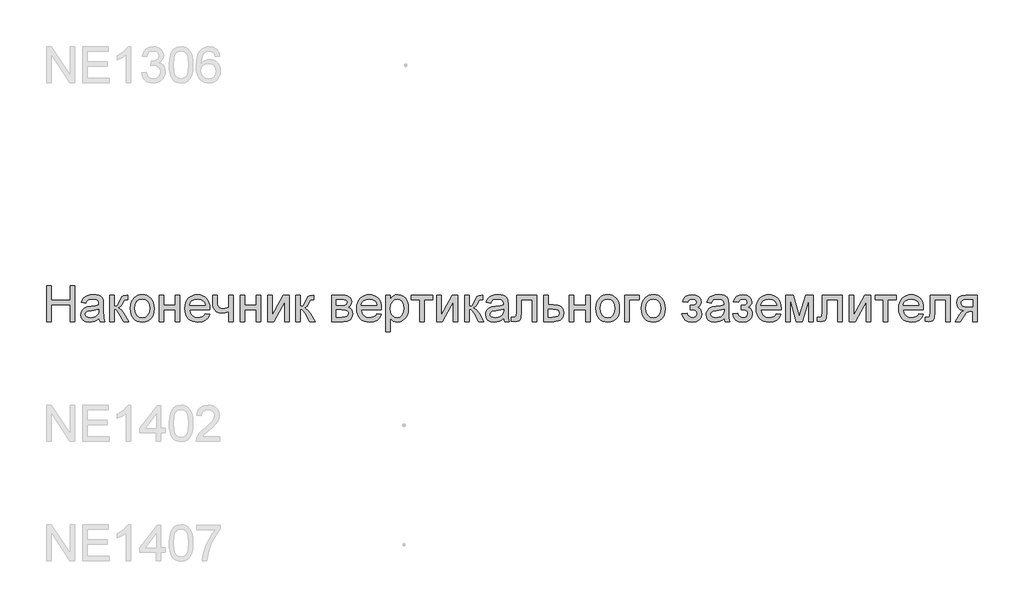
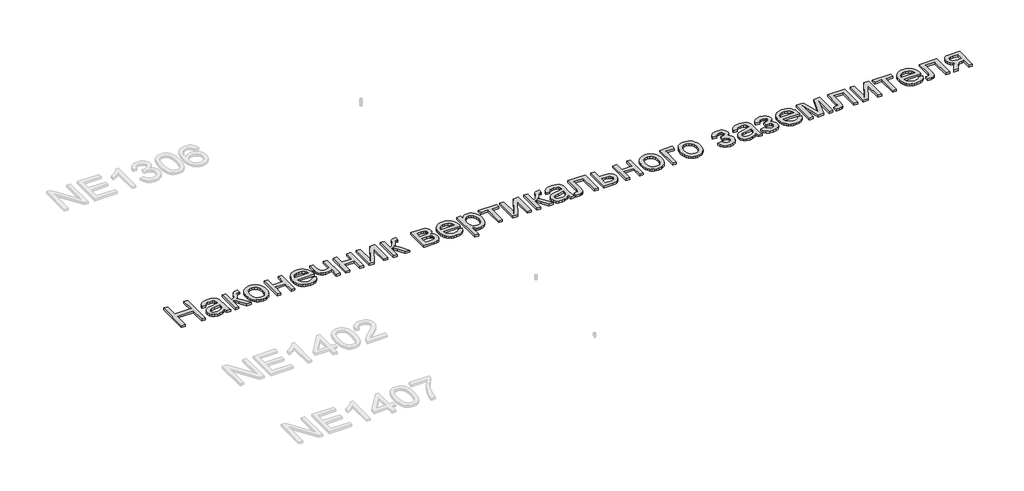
# One storey, part 48 of 124: 1 proxy.
"""IFC4 building model written with IfcOpenShell, lengths in millimetres."""

from ifc_helpers import new_model, si_unit, origin, origin_with_axes, place, context, project, spatial, polyline, outline, extrude, element, save

model = new_model("IFC4")

# Units and contexts
model_context = context("Model", 3, world=origin())
ifc_project = project(units=[si_unit("LENGTHUNIT", "METRE", prefix="MILLI")], contexts=[model_context])

# Site, building, storey
site = spatial("IfcSite", under=ifc_project)
building = spatial("IfcBuilding", under=site)
storey = spatial("IfcBuildingStorey", under=building, Name="Этаж 01", Elevation=0.0)

# Proxy
placement = place(None, origin())
element("IfcBuildingElementProxy", 1, Name="300", ObjectType="300", at=placement, inside=storey, context=model_context, shape_type="SweptSolid", body=[
    extrude(outline(polyline([(32939.8675381, -80074.498362), (32939.8675381, -79773.1294316), (32977.5386545, -79773.1294316), (32977.5386545, -79895.5605595), (33137.6408988, -79895.5605595), (33137.6408988, -79773.1294316), (33175.3120151, -79773.1294316), (33175.3120151, -80074.498362), (33137.6408988, -80074.498362), (33137.6408988, -79933.2316759), (32977.5386545, -79933.2316759), (32977.5386545, -80074.498362), (32939.8675381, -80074.498362)])), origin_with_axes(), (0.0, 0.0, 1.0), 20.0),
    extrude(outline(polyline([(33377.7942652, -80046.2450248), (33359.7956386, -80061.6776745), (33341.2635831, -80071.7760352), (33321.7750344, -80077.3494475), (33300.9069282, -80079.2072515), (33269.4254265, -80074.7374853), (33246.2028755, -80061.3281866), (33231.8830689, -80040.9659181), (33227.1098, -80015.6372428), (33228.9124218, -80000.0206521), (33234.3202871, -79985.8388012), (33242.6620113, -79973.6986953), (33253.2662098, -79964.2073398), (33279.6433489, -79951.8465048), (33312.2376937, -79946.1811221), (33350.7549386, -79940.2214338), (33377.573536, -79933.2316759), (33377.7942652, -79924.8439664), (33375.2006971, -79908.0317592), (33367.4199929, -79897.0320875), (33350.0191746, -79888.8651072), (33325.7757511, -79886.1427805), (33303.3349494, -79887.9545993), (33287.6631764, -79893.3900558), (33276.9762044, -79903.4424313), (33269.4898058, -79919.1050072), (33231.8186895, -79914.3961177), (33238.357792, -79893.794726), (33248.1158619, -79877.6079182), (33262.0034072, -79865.228689), (33280.9309359, -79856.0500333), (33304.0799104, -79850.3662564), (33330.6317934, -79848.4716642), (33356.0984245, -79850.1455272), (33376.285949, -79855.1671165), (33391.5070666, -79862.7178944), (33402.0744769, -79871.9793237), (33409.0826289, -79883.4296508), (33413.6259715, -79897.5471223), (33415.4653815, -79930.5093491), (33415.4653815, -79977.3775153), (33417.3783679, -80042.8237222), (33424.8831606, -80074.498362), (33387.2120443, -80074.498362), (33377.7942652, -80046.2450248)]), holes=[polyline([(33377.7942652, -79970.9027922), (33317.0201596, -79982.4542868), (33284.6097558, -79988.5611279), (33269.9312642, -79998.4939418), (33264.7809163, -80012.9884924), (33267.5860165, -80024.1904992), (33276.0013171, -80033.3691549), (33289.8428772, -80039.4943902), (33308.9267557, -80041.5361352), (33329.1602654, -80039.282858), (33347.0393304, -80032.5230264), (33361.533881, -80022.5626213), (33371.6138477, -80010.707624), (33376.0836139, -79998.4939418), (33377.573536, -79981.57137), (33377.7942652, -79970.9027922)])]), origin_with_axes(), (0.0, 0.0, 1.0), 20.0),
    extrude(outline(polyline([(33467.2631664, -79853.1805537), (33504.9342827, -79853.1805537), (33504.9342827, -79947.3583445), (33520.2565678, -79945.6660873), (33530.1709876, -79940.5893158), (33538.9449732, -79927.3455639), (33550.8459557, -79901.1523659), (33568.0260449, -79867.1232813), (33583.1827831, -79856.0500333), (33610.7371446, -79853.1805537), (33617.9476317, -79853.1805537), (33617.9476317, -79891.0723992), (33607.7940886, -79890.85167), (33589.3999888, -79894.8247956), (33576.4505426, -79919.620042), (33561.2570162, -79946.4386395), (33539.9566487, -79959.5720267), (33551.8944194, -79964.874126), (33563.7218256, -79974.2321242), (33587.0455441, -80005.1158177), (33627.3654107, -80074.498362), (33584.5439465, -80074.498362), (33545.0334202, -80006.5873457), (33525.1677925, -79977.8557619), (33515.8787721, -79972.6410346), (33504.9342827, -79970.9027922), (33504.9342827, -80074.498362), (33467.2631664, -80074.498362), (33467.2631664, -79853.1805537)])), origin_with_axes(), (0.0, 0.0, 1.0), 20.0),
    extrude(outline(polyline([(33641.4920794, -79963.8394579), (33643.5292259, -79935.1768519), (33649.6406655, -79910.4781745), (33659.8263983, -79889.7434255), (33674.0864241, -79872.972605), (33688.443019, -79862.2534434), (33704.2895359, -79854.5968994), (33721.6259749, -79850.002973), (33740.4523361, -79848.4716642), (33761.2353695, -79850.336366), (33780.0272417, -79855.9304716), (33796.8279526, -79865.2539809), (33811.6375021, -79878.306894), (33823.7247249, -79894.6477523), (33832.3584555, -79913.8350977), (33837.5386938, -79935.8689299), (33839.26544, -79960.7492491), (33836.2120194, -79998.8066415), (33827.0517577, -80027.7773486), (33812.0513694, -80049.4731893), (33791.4775688, -80065.7059823), (33767.0410073, -80075.8319342), (33740.4523361, -80079.2072515), (33719.3657999, -80077.3494475), (33700.3991838, -80071.7760352), (33683.5524877, -80062.4870149), (33668.8257116, -80049.4823863), (33656.8672475, -80032.9828788), (33648.3254874, -80013.2092216), (33643.2004314, -79990.1614146), (33641.4920794, -79963.8394579)]), holes=[polyline([(33679.1631957, -79963.7658815), (33683.5225973, -79997.8593454), (33696.6008022, -80022.1487541), (33716.282489, -80036.6892899), (33740.4523361, -80041.5361352), (33764.5118185, -80036.6616988), (33784.1567171, -80022.0383895), (33797.234922, -79997.427084), (33801.5943237, -79962.5886591), (33797.2073309, -79929.4884766), (33784.0463525, -79905.5301616), (33764.3738628, -79890.9896258), (33740.4523361, -79886.1427805), (33716.282489, -79890.9712317), (33696.6008022, -79905.4565852), (33683.5225973, -79929.6908117), (33679.1631957, -79963.7658815)])]), origin_with_axes(), (0.0, 0.0, 1.0), 20.0),
    extrude(outline(polyline([(33881.6454458, -79853.1805537), (33919.3165621, -79853.1805537), (33919.3165621, -79937.9405654), (34018.2032424, -79937.9405654), (34018.2032424, -79853.1805537), (34055.8743587, -79853.1805537), (34055.8743587, -80074.498362), (34018.2032424, -80074.498362), (34018.2032424, -79975.6116817), (33919.3165621, -79975.6116817), (33919.3165621, -80074.498362), (33881.6454458, -80074.498362), (33881.6454458, -79853.1805537)])), origin_with_axes(), (0.0, 0.0, 1.0), 20.0),
    extrude(outline(polyline([(34267.3329295, -80008.5739085), (34304.2682819, -80013.282798), (34290.9601507, -80041.1130709), (34269.7241625, -80061.9167978), (34241.0385639, -80074.8846381), (34205.3816016, -80079.2072515), (34182.0072993, -80077.3425497), (34161.1805798, -80071.7484441), (34142.9014432, -80062.4249348), (34127.1698894, -80049.3720217), (34114.5193473, -80032.9529884), (34105.4832458, -80013.5311184), (34100.0615849, -79991.1064115), (34098.2543646, -79965.6788678), (34100.079979, -79939.3891007), (34105.5568222, -79916.2171336), (34114.6848942, -79896.1629663), (34127.464195, -79879.226599), (34143.1543621, -79865.771315), (34161.0150329, -79856.1603979), (34181.0462076, -79850.3938476), (34203.247886, -79848.4716642), (34224.7344938, -79850.3892491), (34244.1655609, -79856.1420038), (34261.5410874, -79865.7299283), (34276.8610732, -79879.1530226), (34289.3667618, -79896.0526017), (34298.2993965, -79916.0699808), (34303.6589773, -79939.2051598), (34305.4455042, -79965.4581386), (34305.224775, -79975.6116817), (34135.9254809, -79975.6116817), (34142.4461892, -80003.8098366), (34157.5937304, -80024.5399871), (34179.4551179, -80037.2870982), (34206.1173655, -80041.5361352), (34226.1669343, -80039.5679666), (34243.0527179, -80033.6634605), (34256.7747163, -80023.4547352), (34267.3329295, -80008.5739085)]), holes=[polyline([(34135.9254809, -79937.9405654), (34267.7743879, -79937.9405654), (34262.6792223, -79918.0381495), (34252.6912261, -79903.8011162), (34230.728671, -79890.5573644), (34203.1007332, -79886.1427805), (34177.7076785, -79889.6652506), (34156.7108136, -79900.2326609), (34142.1150954, -79916.7045772), (34135.9254809, -79937.9405654)])]), origin_with_axes(), (0.0, 0.0, 1.0), 20.0),
    extrude(outline(polyline([(34328.9899519, -79853.1805537), (34366.6610682, -79853.1805537), (34366.6610682, -79895.6341359), (34369.7144888, -79935.4389678), (34374.910822, -79947.0088566), (34384.3929804, -79956.9968527), (34397.4895794, -79963.8946402), (34413.5292344, -79966.1939026), (34436.5770414, -79963.3428172), (34465.5477485, -79954.7895608), (34465.5477485, -79853.1805537), (34503.2188649, -79853.1805537), (34503.2188649, -80074.498362), (34465.5477485, -80074.498362), (34465.5477485, -79990.9155727), (34433.3948622, -80000.6276574), (34403.4492678, -80003.8650189), (34380.6681752, -80000.4897016), (34360.7381681, -79990.3637497), (34345.2043509, -79975.3449673), (34335.6118278, -79957.2911583), (34330.6454209, -79936.7449489), (34328.9899519, -79914.2489649), (34328.9899519, -79853.1805537)])), origin_with_axes(), (0.0, 0.0, 1.0), 20.0),
    extrude(outline(polyline([(34559.7255393, -79853.1805537), (34597.3966556, -79853.1805537), (34597.3966556, -79937.9405654), (34696.2833359, -79937.9405654), (34696.2833359, -79853.1805537), (34733.9544522, -79853.1805537), (34733.9544522, -80074.498362), (34696.2833359, -80074.498362), (34696.2833359, -79975.6116817), (34597.3966556, -79975.6116817), (34597.3966556, -80074.498362), (34559.7255393, -80074.498362), (34559.7255393, -79853.1805537)])), origin_with_axes(), (0.0, 0.0, 1.0), 20.0),
    extrude(outline(polyline([(34790.4611267, -79853.1805537), (34828.132243, -79853.1805537), (34828.132243, -80021.9648131), (34920.691353, -79853.1805537), (34969.3989291, -79853.1805537), (34969.3989291, -80074.498362), (34931.7278128, -80074.498362), (34931.7278128, -79906.7441722), (34839.757314, -80074.498362), (34790.4611267, -80074.498362), (34790.4611267, -79853.1805537)])), origin_with_axes(), (0.0, 0.0, 1.0), 20.0),
    extrude(outline(polyline([(35025.9056036, -79853.1805537), (35063.5767199, -79853.1805537), (35063.5767199, -79947.3583445), (35078.899005, -79945.6660873), (35088.8134248, -79940.5893158), (35097.5874104, -79927.3455639), (35109.4883929, -79901.1523659), (35126.6684821, -79867.1232813), (35141.8252203, -79856.0500333), (35169.3795817, -79853.1805537), (35176.5900688, -79853.1805537), (35176.5900688, -79891.0723992), (35166.4365258, -79890.85167), (35148.042426, -79894.8247956), (35135.0929798, -79919.620042), (35119.8994534, -79946.4386395), (35098.5990858, -79959.5720267), (35110.5368566, -79964.874126), (35122.3642627, -79974.2321242), (35145.6879812, -80005.1158177), (35186.0078479, -80074.498362), (35143.1863837, -80074.498362), (35103.6758574, -80006.5873457), (35083.8102296, -79977.8557619), (35074.5212093, -79972.6410346), (35063.5767199, -79970.9027922), (35063.5767199, -80074.498362), (35025.9056036, -80074.498362), (35025.9056036, -79853.1805537)])), origin_with_axes(), (0.0, 0.0, 1.0), 20.0),
    extrude(outline(polyline([(35327.274534, -79853.1805537), (35410.2687122, -79853.1805537), (35436.9493539, -79854.4405495), (35455.775715, -79858.220537), (35469.6264721, -79865.3574477), (35481.3803018, -79876.6882132), (35489.4093264, -79891.4494783), (35492.0856679, -79908.8778878), (35490.4669871, -79922.9217829), (35485.6109448, -79935.0342976), (35477.4991468, -79945.2706141), (35466.113199, -79953.6859148), (35480.0559266, -79961.5126042), (35491.4234803, -79974.1033655), (35498.9834553, -79990.4649173), (35501.503447, -80009.6039781), (35495.1206943, -80038.3171678), (35479.945562, -80058.5322834), (35455.9228678, -80070.5068424), (35422.9974292, -80074.498362), (35327.274534, -80074.498362), (35327.274534, -79853.1805537)]), holes=[polyline([(35364.9456504, -79937.9405654), (35402.1753083, -79937.9405654), (35432.8934549, -79936.027579), (35447.8294639, -79928.3756335), (35452.7682797, -79922.0480632), (35454.4145516, -79914.5432705), (35451.5266779, -79903.3044755), (35442.8630569, -79896.0755943), (35427.209678, -79892.1576511), (35403.3525307, -79890.85167), (35364.9456504, -79890.85167), (35364.9456504, -79937.9405654)]), polyline([(35364.9456504, -80036.8272457), (35411.1516289, -80036.8272457), (35436.3331515, -80035.1257915), (35452.1336832, -80030.0214288), (35460.6133632, -80020.7416055), (35463.8323307, -80006.5137693), (35462.2228469, -79997.0867932), (35457.3943957, -79988.3771869), (35449.9815735, -79981.562173), (35440.6189768, -79977.8189737), (35407.472809, -79975.6116817), (35364.9456504, -79975.6116817), (35364.9456504, -80036.8272457)])]), origin_with_axes(), (0.0, 0.0, 1.0), 20.0),
    extrude(outline(polyline([(35703.5442387, -80008.5739085), (35740.479591, -80013.282798), (35727.1714599, -80041.1130709), (35705.9354717, -80061.9167978), (35677.2498731, -80074.8846381), (35641.5929107, -80079.2072515), (35618.2186085, -80077.3425497), (35597.391889, -80071.7484441), (35579.1127524, -80062.4249348), (35563.3811986, -80049.3720217), (35550.7306564, -80032.9529884), (35541.6945549, -80013.5311184), (35536.272894, -79991.1064115), (35534.4656737, -79965.6788678), (35536.2912881, -79939.3891007), (35541.7681313, -79916.2171336), (35550.8962033, -79896.1629663), (35563.6755041, -79879.226599), (35579.3656712, -79865.771315), (35597.2263421, -79856.1603979), (35617.2575167, -79850.3938476), (35639.4591952, -79848.4716642), (35660.9458029, -79850.3892491), (35680.3768701, -79856.1420038), (35697.7523966, -79865.7299283), (35713.0723824, -79879.1530226), (35725.578071, -79896.0526017), (35734.5107057, -79916.0699808), (35739.8702865, -79939.2051598), (35741.6568134, -79965.4581386), (35741.4360842, -79975.6116817), (35572.13679, -79975.6116817), (35578.6574984, -80003.8098366), (35593.8050396, -80024.5399871), (35615.6664271, -80037.2870982), (35642.3286747, -80041.5361352), (35662.3782435, -80039.5679666), (35679.264027, -80033.6634605), (35692.9860255, -80023.4547352), (35703.5442387, -80008.5739085)]), holes=[polyline([(35572.13679, -79937.9405654), (35703.9856971, -79937.9405654), (35698.8905315, -79918.0381495), (35688.9025353, -79903.8011162), (35666.9399802, -79890.5573644), (35639.3120424, -79886.1427805), (35613.9189876, -79889.6652506), (35592.9221228, -79900.2326609), (35578.3264046, -79916.7045772), (35572.13679, -79937.9405654)])]), origin_with_axes(), (0.0, 0.0, 1.0), 20.0),
    extrude(outline(polyline([(35779.3279297, -80159.2583737), (35779.3279297, -79853.1805537), (35816.999046, -79853.1805537), (35816.999046, -79890.115906), (35829.2863047, -79871.8965502), (35843.0450913, -79858.8827246), (35859.0847463, -79851.0744293), (35878.21461, -79848.4716642), (35903.6904382, -79852.1136959), (35925.965693, -79863.0397912), (35944.1022754, -79880.5877623), (35957.1620862, -79904.0954218), (35965.053155, -79931.8521184), (35967.6835113, -79962.1472007), (35964.7128641, -79994.3644664), (35955.8009228, -80023.1788237), (35941.2327958, -80047.1279416), (35921.2935917, -80064.7494891), (35898.0710407, -80075.5928109), (35873.6528733, -80079.2072515), (35856.3348284, -80076.7884274), (35840.8745875, -80069.5319551), (35827.6400327, -80058.5782687), (35816.999046, -80045.0678024), (35816.999046, -80159.2583737), (35779.3279297, -80159.2583737)]), holes=[polyline([(35816.999046, -79965.6052914), (35821.0733391, -79999.3768586), (35833.2962184, -80022.9948827), (35851.3316332, -80036.9008221), (35872.8435329, -80041.5361352), (35894.7049205, -80036.7352752), (35913.2001878, -80022.3326951), (35925.8093432, -79997.8501483), (35930.0123949, -79962.8093883), (35925.9105107, -79929.2217621), (35913.604858, -79905.2726442), (35895.5970343, -79890.9252464), (35874.3886373, -79886.1427805), (35853.0974668, -79891.2287491), (35834.3998644, -79906.4866548), (35821.3492506, -79931.4382511), (35816.999046, -79965.6052914)])]), origin_with_axes(), (0.0, 0.0, 1.0), 20.0),
    extrude(outline(polyline([(35991.2279589, -79853.1805537), (36170.1657614, -79853.1805537), (36170.1657614, -79890.85167), (36099.5324183, -79890.85167), (36099.5324183, -80074.498362), (36061.861302, -80074.498362), (36061.861302, -79890.85167), (35991.2279589, -79890.85167), (35991.2279589, -79853.1805537)])), origin_with_axes(), (0.0, 0.0, 1.0), 20.0),
    extrude(outline(polyline([(36203.1279882, -79853.1805537), (36240.7991045, -79853.1805537), (36240.7991045, -80021.9648131), (36333.3582145, -79853.1805537), (36382.0657906, -79853.1805537), (36382.0657906, -80074.498362), (36344.3946743, -80074.498362), (36344.3946743, -79906.7441722), (36252.4241755, -80074.498362), (36203.1279882, -80074.498362), (36203.1279882, -79853.1805537)])), origin_with_axes(), (0.0, 0.0, 1.0), 20.0),
    extrude(outline(polyline([(36438.5724651, -79853.1805537), (36476.2435814, -79853.1805537), (36476.2435814, -79947.3583445), (36491.5658665, -79945.6660873), (36501.4802863, -79940.5893158), (36510.2542718, -79927.3455639), (36522.1552544, -79901.1523659), (36539.3353436, -79867.1232813), (36554.4920818, -79856.0500333), (36582.0464432, -79853.1805537), (36589.2569303, -79853.1805537), (36589.2569303, -79891.0723992), (36579.1033872, -79890.85167), (36560.7092875, -79894.8247956), (36547.7598412, -79919.620042), (36532.5663148, -79946.4386395), (36511.2659473, -79959.5720267), (36523.2037181, -79964.874126), (36535.0311242, -79974.2321242), (36558.3548427, -80005.1158177), (36598.6747094, -80074.498362), (36555.8532451, -80074.498362), (36516.3427189, -80006.5873457), (36496.4770911, -79977.8557619), (36487.1880707, -79972.6410346), (36476.2435814, -79970.9027922), (36476.2435814, -80074.498362), (36438.5724651, -80074.498362), (36438.5724651, -79853.1805537)])), origin_with_axes(), (0.0, 0.0, 1.0), 20.0),
    extrude(outline(polyline([(36763.4858432, -80046.2450248), (36745.4872166, -80061.6776745), (36726.9551611, -80071.7760352), (36707.4666124, -80077.3494475), (36686.5985062, -80079.2072515), (36655.1170045, -80074.7374853), (36631.8944535, -80061.3281866), (36617.5746469, -80040.9659181), (36612.801378, -80015.6372428), (36614.6039998, -80000.0206521), (36620.0118651, -79985.8388012), (36628.3535893, -79973.6986953), (36638.9577879, -79964.2073398), (36665.3349269, -79951.8465048), (36697.9292717, -79946.1811221), (36736.4465166, -79940.2214338), (36763.265114, -79933.2316759), (36763.4858432, -79924.8439664), (36760.8922752, -79908.0317592), (36753.111571, -79897.0320875), (36735.7107526, -79888.8651072), (36711.4673291, -79886.1427805), (36689.0265274, -79887.9545993), (36673.3547544, -79893.3900558), (36662.6677824, -79903.4424313), (36655.1813838, -79919.1050072), (36617.5102675, -79914.3961177), (36624.04937, -79893.794726), (36633.8074399, -79877.6079182), (36647.6949852, -79865.228689), (36666.6225139, -79856.0500333), (36689.7714884, -79850.3662564), (36716.3233714, -79848.4716642), (36741.7900026, -79850.1455272), (36761.977527, -79855.1671165), (36777.1986446, -79862.7178944), (36787.7660549, -79871.9793237), (36794.7742069, -79883.4296508), (36799.3175495, -79897.5471223), (36801.1569595, -79930.5093491), (36801.1569595, -79977.3775153), (36803.0699459, -80042.8237222), (36810.5747386, -80074.498362), (36772.9036223, -80074.498362), (36763.4858432, -80046.2450248)]), holes=[polyline([(36763.4858432, -79970.9027922), (36702.7117376, -79982.4542868), (36670.3013338, -79988.5611279), (36655.6228422, -79998.4939418), (36650.4724943, -80012.9884924), (36653.2775945, -80024.1904992), (36661.6928952, -80033.3691549), (36675.5344552, -80039.4943902), (36694.6183337, -80041.5361352), (36714.8518435, -80039.282858), (36732.7309084, -80032.5230264), (36747.225459, -80022.5626213), (36757.3054257, -80010.707624), (36761.7751919, -79998.4939418), (36763.265114, -79981.57137), (36763.4858432, -79970.9027922)])]), origin_with_axes(), (0.0, 0.0, 1.0), 20.0),
    extrude(outline(polyline([(36871.7903026, -79853.1805537), (37041.310326, -79853.1805537), (37041.310326, -80074.2776328), (37003.6392097, -80074.2776328), (37003.6392097, -79890.85167), (36909.4614189, -79890.85167), (36909.4614189, -79996.4338026), (36906.9230331, -80045.1413788), (36902.1681584, -80056.1686416), (36892.9803055, -80065.7059823), (36879.0375779, -80072.3002671), (36860.0180788, -80074.498362), (36829.4102968, -80072.5853756), (36829.4102968, -80036.8272457), (36846.2592921, -80036.8272457), (36863.2922285, -80034.5095891), (36870.0980454, -80027.1519492), (36871.7903026, -79994.3000871), (36871.7903026, -79853.1805537)])), origin_with_axes(), (0.0, 0.0, 1.0), 20.0),
    extrude(outline(polyline([(37097.8170004, -79853.1805537), (37135.4881167, -79853.1805537), (37135.4881167, -79933.2316759), (37178.8981922, -79933.2316759), (37216.5325203, -79937.9497624), (37231.6800614, -79943.8473707), (37244.3811873, -79952.1040222), (37254.4243658, -79962.4346085), (37261.5980647, -79974.554021), (37267.3370238, -80004.1593245), (37262.4533903, -80031.1158777), (37247.8024899, -80053.8601821), (37236.5705927, -80062.8893858), (37222.4094352, -80069.338817), (37185.2993389, -80074.498362), (37097.8170004, -80074.498362), (37097.8170004, -79853.1805537)]), holes=[polyline([(37135.4881167, -80036.8272457), (37170.6576355, -80036.8272457), (37197.9452825, -80034.84988), (37216.0910619, -80028.9177828), (37226.2721961, -80018.7918309), (37229.6659075, -80004.2329009), (37227.1551129, -79991.9272482), (37219.622729, -79981.0563352), (37203.4819065, -79973.4411779), (37175.1457958, -79970.9027922), (37135.4881167, -79970.9027922), (37135.4881167, -80036.8272457)])]), origin_with_axes(), (0.0, 0.0, 1.0), 20.0),
    extrude(outline(polyline([(37314.4259192, -79853.1805537), (37352.0970355, -79853.1805537), (37352.0970355, -79937.9405654), (37450.9837158, -79937.9405654), (37450.9837158, -79853.1805537), (37488.6548321, -79853.1805537), (37488.6548321, -80074.498362), (37450.9837158, -80074.498362), (37450.9837158, -79975.6116817), (37352.0970355, -79975.6116817), (37352.0970355, -80074.498362), (37314.4259192, -80074.498362), (37314.4259192, -79853.1805537)])), origin_with_axes(), (0.0, 0.0, 1.0), 20.0),
    extrude(outline(polyline([(37535.7437275, -79963.8394579), (37537.780874, -79935.1768519), (37543.8923137, -79910.4781745), (37554.0780464, -79889.7434255), (37568.3380723, -79872.972605), (37582.6946671, -79862.2534434), (37598.5411841, -79854.5968994), (37615.8776231, -79850.002973), (37634.7039842, -79848.4716642), (37655.4870177, -79850.336366), (37674.2788898, -79855.9304716), (37691.0796007, -79865.2539809), (37705.8891503, -79878.306894), (37717.9763731, -79894.6477523), (37726.6101036, -79913.8350977), (37731.790342, -79935.8689299), (37733.5170881, -79960.7492491), (37730.4636675, -79998.8066415), (37721.3034059, -80027.7773486), (37706.3030175, -80049.4731893), (37685.7292169, -80065.7059823), (37661.2926554, -80075.8319342), (37634.7039842, -80079.2072515), (37613.6174481, -80077.3494475), (37594.650832, -80071.7760352), (37577.8041359, -80062.4870149), (37563.0773597, -80049.4823863), (37551.1188956, -80032.9828788), (37542.5771356, -80013.2092216), (37537.4520795, -79990.1614146), (37535.7437275, -79963.8394579)]), holes=[polyline([(37573.4148438, -79963.7658815), (37577.7742454, -79997.8593454), (37590.8524504, -80022.1487541), (37610.5341371, -80036.6892899), (37634.7039842, -80041.5361352), (37658.7634667, -80036.6616988), (37678.4083652, -80022.0383895), (37691.4865702, -79997.427084), (37695.8459718, -79962.5886591), (37691.458979, -79929.4884766), (37678.2980006, -79905.5301616), (37658.6255109, -79890.9896258), (37634.7039842, -79886.1427805), (37610.5341371, -79890.9712317), (37590.8524504, -79905.4565852), (37577.7742454, -79929.6908117), (37573.4148438, -79963.7658815)])]), origin_with_axes(), (0.0, 0.0, 1.0), 20.0),
    extrude(outline(polyline([(37775.8970939, -79853.1805537), (37898.3282219, -79853.1805537), (37898.3282219, -79890.85167), (37813.5682103, -79890.85167), (37813.5682103, -80074.498362), (37775.8970939, -80074.498362), (37775.8970939, -79853.1805537)])), origin_with_axes(), (0.0, 0.0, 1.0), 20.0),
    extrude(outline(polyline([(37917.1637801, -79963.8394579), (37919.2009266, -79935.1768519), (37925.3123663, -79910.4781745), (37935.498099, -79889.7434255), (37949.7581249, -79872.972605), (37964.1147197, -79862.2534434), (37979.9612367, -79854.5968994), (37997.2976757, -79850.002973), (38016.1240368, -79848.4716642), (38036.9070703, -79850.336366), (38055.6989424, -79855.9304716), (38072.4996533, -79865.2539809), (38087.3092029, -79878.306894), (38099.3964257, -79894.6477523), (38108.0301562, -79913.8350977), (38113.2103946, -79935.8689299), (38114.9371407, -79960.7492491), (38111.8837201, -79998.8066415), (38102.7234585, -80027.7773486), (38087.7230701, -80049.4731893), (38067.1492695, -80065.7059823), (38042.712708, -80075.8319342), (38016.1240368, -80079.2072515), (37995.0375007, -80077.3494475), (37976.0708846, -80071.7760352), (37959.2241885, -80062.4870149), (37944.4974123, -80049.4823863), (37932.5389482, -80032.9828788), (37923.9971882, -80013.2092216), (37918.8721321, -79990.1614146), (37917.1637801, -79963.8394579)]), holes=[polyline([(37954.8348964, -79963.7658815), (37959.194298, -79997.8593454), (37972.272503, -80022.1487541), (37991.9541897, -80036.6892899), (38016.1240368, -80041.5361352), (38040.1835193, -80036.6616988), (38059.8284178, -80022.0383895), (38072.9066228, -79997.427084), (38077.2660244, -79962.5886591), (38072.8790316, -79929.4884766), (38059.7180532, -79905.5301616), (38040.0455635, -79890.9896258), (38016.1240368, -79886.1427805), (37991.9541897, -79890.9712317), (37972.272503, -79905.4565852), (37959.194298, -79929.6908117), (37954.8348964, -79963.7658815)])]), origin_with_axes(), (0.0, 0.0, 1.0), 20.0),
    extrude(outline(polyline([(38326.8371699, -79975.6116817), (38326.8371699, -79937.9405654), (38356.5620351, -79936.4690374), (38371.5716205, -79928.6331509), (38376.8691213, -79921.2847081), (38378.6349548, -79912.2624021), (38376.271313, -79901.547839), (38369.1803876, -79893.242903), (38358.3554599, -79887.9178111), (38344.7898113, -79886.1427805), (38331.0770099, -79887.908614), (38319.5898946, -79893.2061148), (38310.3284654, -79902.0352827), (38303.2927222, -79914.3961177), (38260.9127164, -79909.6872282), (38272.1515113, -79882.9054189), (38289.23963, -79863.7755552), (38312.1770724, -79852.2976369), (38340.9638385, -79848.4716642), (38372.4545373, -79853.1345685), (38396.2932906, -79867.1232813), (38411.302876, -79887.5867173), (38416.3060711, -79911.6737909), (38414.526442, -79924.034626), (38409.1875545, -79935.0710858), (38400.2894088, -79944.7831705), (38387.8320047, -79953.17088), (38402.3725406, -79963.6371228), (38412.7376158, -79976.6417513), (38418.9456245, -79992.2215538), (38421.0149607, -80010.4133184), (38415.7634452, -80038.1424238), (38400.0088988, -80060.114176), (38374.8181791, -80074.4339827), (38341.2581441, -80079.2072515), (38308.4338731, -80074.7926676), (38283.3167299, -80061.5489158), (38265.9067145, -80039.4759961), (38256.2038268, -80008.5739085), (38298.5838327, -80003.8650189), (38304.9297971, -80019.7943093), (38315.5799809, -80031.6768978), (38329.3019793, -80039.0713259), (38344.8633877, -80041.5361352), (38360.0201259, -80039.1724934), (38372.3809609, -80032.081568), (38380.6031235, -80021.3118225), (38383.3438444, -80007.9117209), (38381.6423902, -79997.2983253), (38376.5380275, -79988.1196695), (38362.0434769, -79977.5246681), (38334.1948098, -79975.3909525), (38326.8371699, -79975.6116817)])), origin_with_axes(), (0.0, 0.0, 1.0), 20.0),
    extrude(outline(polyline([(38609.3705422, -80046.2450248), (38591.3719156, -80061.6776745), (38572.8398601, -80071.7760352), (38553.3513114, -80077.3494475), (38532.4832052, -80079.2072515), (38501.0017035, -80074.7374853), (38477.7791525, -80061.3281866), (38463.4593459, -80040.9659181), (38458.686077, -80015.6372428), (38460.4886988, -80000.0206521), (38465.8965641, -79985.8388012), (38474.2382883, -79973.6986953), (38484.8424869, -79964.2073398), (38511.2196259, -79951.8465048), (38543.8139707, -79946.1811221), (38582.3312156, -79940.2214338), (38609.149813, -79933.2316759), (38609.3705422, -79924.8439664), (38606.7769742, -79908.0317592), (38598.99627, -79897.0320875), (38581.5954516, -79888.8651072), (38557.3520281, -79886.1427805), (38534.9112264, -79887.9545993), (38519.2394534, -79893.3900558), (38508.5524814, -79903.4424313), (38501.0660828, -79919.1050072), (38463.3949665, -79914.3961177), (38469.934069, -79893.794726), (38479.6921389, -79877.6079182), (38493.5796842, -79865.228689), (38512.5072129, -79856.0500333), (38535.6561874, -79850.3662564), (38562.2080704, -79848.4716642), (38587.6747016, -79850.1455272), (38607.862226, -79855.1671165), (38623.0833436, -79862.7178944), (38633.6507539, -79871.9793237), (38640.6589059, -79883.4296508), (38645.2022485, -79897.5471223), (38647.0416585, -79930.5093491), (38647.0416585, -79977.3775153), (38648.9546449, -80042.8237222), (38656.4594376, -80074.498362), (38618.7883213, -80074.498362), (38609.3705422, -80046.2450248)]), holes=[polyline([(38609.3705422, -79970.9027922), (38548.5964366, -79982.4542868), (38516.1860328, -79988.5611279), (38501.5075412, -79998.4939418), (38496.3571933, -80012.9884924), (38499.1622935, -80024.1904992), (38507.5775942, -80033.3691549), (38521.4191542, -80039.4943902), (38540.5030327, -80041.5361352), (38560.7365425, -80039.282858), (38578.6156074, -80032.5230264), (38593.110158, -80022.5626213), (38603.1901247, -80010.707624), (38607.6598909, -79998.4939418), (38609.149813, -79981.57137), (38609.3705422, -79970.9027922)])]), origin_with_axes(), (0.0, 0.0, 1.0), 20.0),
    extrude(outline(polyline([(38750.6372284, -79975.6116817), (38750.6372284, -79937.9405654), (38780.3620936, -79936.4690374), (38795.371679, -79928.6331509), (38800.6691797, -79921.2847081), (38802.4350133, -79912.2624021), (38800.0713715, -79901.547839), (38792.980446, -79893.242903), (38782.1555183, -79887.9178111), (38768.5898697, -79886.1427805), (38754.8770684, -79887.908614), (38743.3899531, -79893.2061148), (38734.1285238, -79902.0352827), (38727.0927807, -79914.3961177), (38684.7127748, -79909.6872282), (38695.9515698, -79882.9054189), (38713.0396885, -79863.7755552), (38735.9771309, -79852.2976369), (38764.763897, -79848.4716642), (38796.2545958, -79853.1345685), (38820.0933491, -79867.1232813), (38835.1029345, -79887.5867173), (38840.1061296, -79911.6737909), (38838.3265004, -79924.034626), (38832.987613, -79935.0710858), (38824.0894672, -79944.7831705), (38811.6320632, -79953.17088), (38826.172599, -79963.6371228), (38836.5376742, -79976.6417513), (38842.7456829, -79992.2215538), (38844.8150191, -80010.4133184), (38839.5635036, -80038.1424238), (38823.8089572, -80060.114176), (38798.6182376, -80074.4339827), (38765.0582026, -80079.2072515), (38732.2339316, -80074.7926676), (38707.1167883, -80061.5489158), (38689.7067729, -80039.4759961), (38680.0038853, -80008.5739085), (38722.3838911, -80003.8650189), (38728.7298556, -80019.7943093), (38739.3800393, -80031.6768978), (38753.1020377, -80039.0713259), (38768.6634461, -80041.5361352), (38783.8201843, -80039.1724934), (38796.1810194, -80032.081568), (38804.403182, -80021.3118225), (38807.1439028, -80007.9117209), (38805.4424486, -79997.2983253), (38800.3380859, -79988.1196695), (38785.8435353, -79977.5246681), (38757.9948683, -79975.3909525), (38750.6372284, -79975.6116817)])), origin_with_axes(), (0.0, 0.0, 1.0), 20.0),
    extrude(outline(polyline([(39046.8558109, -80008.5739085), (39083.7911632, -80013.282798), (39070.483032, -80041.1130709), (39049.2470439, -80061.9167978), (39020.5614453, -80074.8846381), (38984.9044829, -80079.2072515), (38961.5301806, -80077.3425497), (38940.7034612, -80071.7484441), (38922.4243245, -80062.4249348), (38906.6927707, -80049.3720217), (38894.0422286, -80032.9529884), (38885.0061271, -80013.5311184), (38879.5844662, -79991.1064115), (38877.7772459, -79965.6788678), (38879.6028603, -79939.3891007), (38885.0797035, -79916.2171336), (38894.2077755, -79896.1629663), (38906.9870763, -79879.226599), (38922.6772434, -79865.771315), (38940.5379143, -79856.1603979), (38960.5690889, -79850.3938476), (38982.7707673, -79848.4716642), (39004.2573751, -79850.3892491), (39023.6884422, -79856.1420038), (39041.0639687, -79865.7299283), (39056.3839546, -79879.1530226), (39068.8896431, -79896.0526017), (39077.8222778, -79916.0699808), (39083.1818586, -79939.2051598), (39084.9683856, -79965.4581386), (39084.7476564, -79975.6116817), (38915.4483622, -79975.6116817), (38921.9690706, -80003.8098366), (38937.1166117, -80024.5399871), (38958.9779993, -80037.2870982), (38985.6402469, -80041.5361352), (39005.6898156, -80039.5679666), (39022.5755992, -80033.6634605), (39036.2975976, -80023.4547352), (39046.8558109, -80008.5739085)]), holes=[polyline([(38915.4483622, -79937.9405654), (39047.2972693, -79937.9405654), (39042.2021036, -79918.0381495), (39032.2141075, -79903.8011162), (39010.2515524, -79890.5573644), (38982.6236145, -79886.1427805), (38957.2305598, -79889.6652506), (38936.2336949, -79900.2326609), (38921.6379768, -79916.7045772), (38915.4483622, -79937.9405654)])]), origin_with_axes(), (0.0, 0.0, 1.0), 20.0),
    extrude(outline(polyline([(39122.6395019, -79853.1805537), (39187.4603094, -79853.1805537), (39237.4186844, -80030.3525226), (39291.2766085, -79853.1805537), (39353.3750893, -79853.1805537), (39353.3750893, -80074.498362), (39315.703973, -80074.498362), (39315.703973, -79896.2963235), (39261.5517433, -80074.498362), (39212.1084031, -80074.498362), (39160.3106182, -79887.7614613), (39160.3106182, -80074.498362), (39122.6395019, -80074.498362), (39122.6395019, -79853.1805537)])), origin_with_axes(), (0.0, 0.0, 1.0), 20.0),
    extrude(outline(polyline([(39428.7173219, -79853.1805537), (39598.2373453, -79853.1805537), (39598.2373453, -80074.2776328), (39560.5662289, -80074.2776328), (39560.5662289, -79890.85167), (39466.3884382, -79890.85167), (39466.3884382, -79996.4338026), (39463.8500524, -80045.1413788), (39459.0951776, -80056.1686416), (39449.9073248, -80065.7059823), (39435.9645972, -80072.3002671), (39416.945098, -80074.498362), (39386.337316, -80072.5853756), (39386.337316, -80036.8272457), (39403.1863114, -80036.8272457), (39420.2192478, -80034.5095891), (39427.0250647, -80027.1519492), (39428.7173219, -79994.3000871), (39428.7173219, -79853.1805537)])), origin_with_axes(), (0.0, 0.0, 1.0), 20.0),
    extrude(outline(polyline([(39654.7440197, -79853.1805537), (39692.415136, -79853.1805537), (39692.415136, -80021.9648131), (39784.974246, -79853.1805537), (39833.6818222, -79853.1805537), (39833.6818222, -80074.498362), (39796.0107059, -80074.498362), (39796.0107059, -79906.7441722), (39704.0402071, -80074.498362), (39654.7440197, -80074.498362), (39654.7440197, -79853.1805537)])), origin_with_axes(), (0.0, 0.0, 1.0), 20.0),
    extrude(outline(polyline([(39871.3529385, -79853.1805537), (40050.2907409, -79853.1805537), (40050.2907409, -79890.85167), (39979.6573979, -79890.85167), (39979.6573979, -80074.498362), (39941.9862815, -80074.498362), (39941.9862815, -79890.85167), (39871.3529385, -79890.85167), (39871.3529385, -79853.1805537)])), origin_with_axes(), (0.0, 0.0, 1.0), 20.0),
    extrude(outline(polyline([(40238.2048641, -80008.5739085), (40275.1402164, -80013.282798), (40261.8320852, -80041.1130709), (40240.596097, -80061.9167978), (40211.9104985, -80074.8846381), (40176.2535361, -80079.2072515), (40152.8792338, -80077.3425497), (40132.0525144, -80071.7484441), (40113.7733777, -80062.4249348), (40098.0418239, -80049.3720217), (40085.3912818, -80032.9529884), (40076.3551803, -80013.5311184), (40070.9335194, -79991.1064115), (40069.1262991, -79965.6788678), (40070.9519135, -79939.3891007), (40076.4287567, -79916.2171336), (40085.5568287, -79896.1629663), (40098.3361295, -79879.226599), (40114.0262966, -79865.771315), (40131.8869675, -79856.1603979), (40151.9181421, -79850.3938476), (40174.1198205, -79848.4716642), (40195.6064283, -79850.3892491), (40215.0374954, -79856.1420038), (40232.4130219, -79865.7299283), (40247.7330077, -79879.1530226), (40260.2386963, -79896.0526017), (40269.171331, -79916.0699808), (40274.5309118, -79939.2051598), (40276.3174388, -79965.4581386), (40276.0967096, -79975.6116817), (40106.7974154, -79975.6116817), (40113.3181237, -80003.8098366), (40128.4656649, -80024.5399871), (40150.3270525, -80037.2870982), (40176.9893001, -80041.5361352), (40197.0388688, -80039.5679666), (40213.9246524, -80033.6634605), (40227.6466508, -80023.4547352), (40238.2048641, -80008.5739085)]), holes=[polyline([(40106.7974154, -79937.9405654), (40238.6463225, -79937.9405654), (40233.5511568, -79918.0381495), (40223.5631607, -79903.8011162), (40201.6006055, -79890.5573644), (40173.9726677, -79886.1427805), (40148.579613, -79889.6652506), (40127.5827481, -79900.2326609), (40112.98703, -79916.7045772), (40106.7974154, -79937.9405654)])]), origin_with_axes(), (0.0, 0.0, 1.0), 20.0),
    extrude(outline(polyline([(40332.8241132, -79853.1805537), (40502.3441366, -79853.1805537), (40502.3441366, -80074.2776328), (40464.6730203, -80074.2776328), (40464.6730203, -79890.85167), (40370.4952295, -79890.85167), (40370.4952295, -79996.4338026), (40367.9568438, -80045.1413788), (40363.201969, -80056.1686416), (40354.0141161, -80065.7059823), (40340.0713885, -80072.3002671), (40321.0518894, -80074.498362), (40290.4441074, -80072.5853756), (40290.4441074, -80036.8272457), (40307.2931028, -80036.8272457), (40324.3260391, -80034.5095891), (40331.131856, -80027.1519492), (40332.8241132, -79994.3000871), (40332.8241132, -79853.1805537)])), origin_with_axes(), (0.0, 0.0, 1.0), 20.0),
    extrude(outline(polyline([(40728.3708344, -79853.1805537), (40728.3708344, -80074.498362), (40690.6997181, -80074.498362), (40690.6997181, -79989.7383503), (40670.1719028, -79989.7383503), (40642.2128712, -79994.5208163), (40631.0476526, -80004.9502708), (40615.9460967, -80026.6737026), (40585.9269259, -80074.498362), (40542.3696977, -80074.498362), (40580.1879668, -80014.018562), (40596.8898094, -79992.3135243), (40612.2672768, -79982.675016), (40586.5155371, -79974.7839472), (40568.4157429, -79959.7927559), (40557.7103769, -79939.8535518), (40554.1419215, -79917.1184445), (40559.016358, -79891.3299166), (40573.6396673, -79870.9124659), (40597.4968147, -79857.6135317), (40630.0727653, -79853.1805537), (40728.3708344, -79853.1805537)]), holes=[polyline([(40690.6997181, -79890.85167), (40641.0356488, -79890.85167), (40615.3850767, -79893.0313708), (40600.8261467, -79899.5704733), (40594.066315, -79909.0342376), (40591.8130378, -79919.987924), (40595.1331728, -79934.3445189), (40605.0935779, -79944.3049239), (40623.4968747, -79950.1266565), (40652.145685, -79952.067234), (40690.6997181, -79952.067234), (40690.6997181, -79890.85167)])]), origin_with_axes(), (0.0, 0.0, 1.0), 20.0),
])

save(model, "model.ifc")
